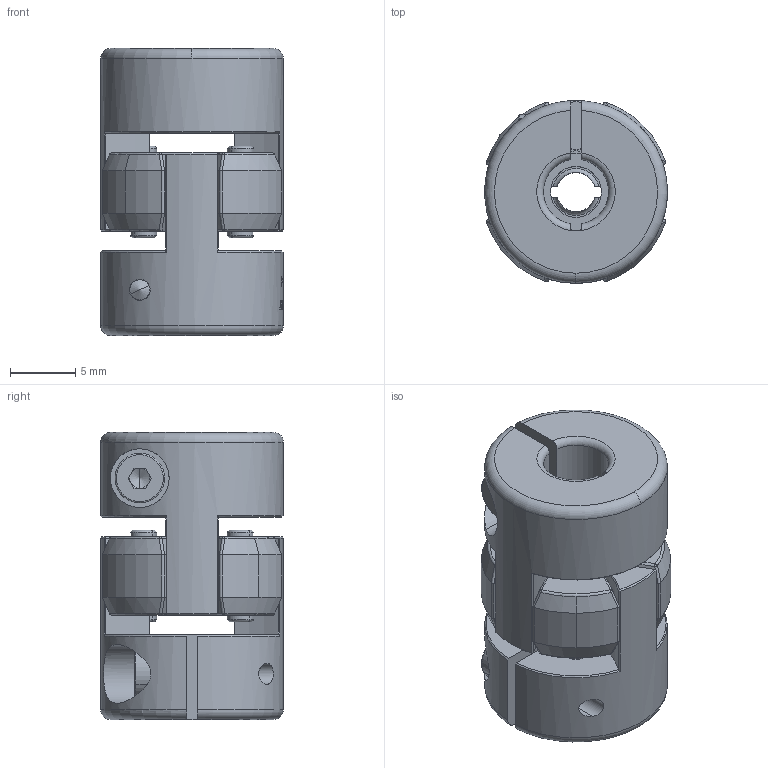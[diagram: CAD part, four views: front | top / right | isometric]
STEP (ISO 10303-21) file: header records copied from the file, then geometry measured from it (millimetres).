
FILE_DESCRIPTION (( 'STEP AP203' ), '1' );
FILE_NAME ('FACE14-B.R.W.STEP', '2008-04-04T06:15:57', ( '陳志豪' ), ( '高明鐵企業股份有限公司' ), 'SwSTEP 2.0', 'SolidWorks 2007', '' );
FILE_SCHEMA (( 'CONFIG_CONTROL_DESIGN' ));
Length unit declared in the file: millimetre
Products named in the file (1): FACE14-B.R.W
Bounding box: 14 x 14 x 22 mm (x, y, z)
Surface area: 2428.4 mm2 (no closed solid volume)
Topology: 0 solids, 6 shells, 314 faces, 1078 edges, 735 vertices
Faces by surface type: plane 86, cylinder 71, cone 50, torus 45, bspline 43, sphere 19
Entity records: 13123 total; most frequent: CARTESIAN_POINT 4566, ORIENTED_EDGE 1737, DIRECTION 1606, EDGE_CURVE 1074, VERTEX_POINT 735, AXIS2_PLACEMENT_3D 661, B_SPLINE_CURVE_WITH_KNOTS 401, CIRCLE 389
